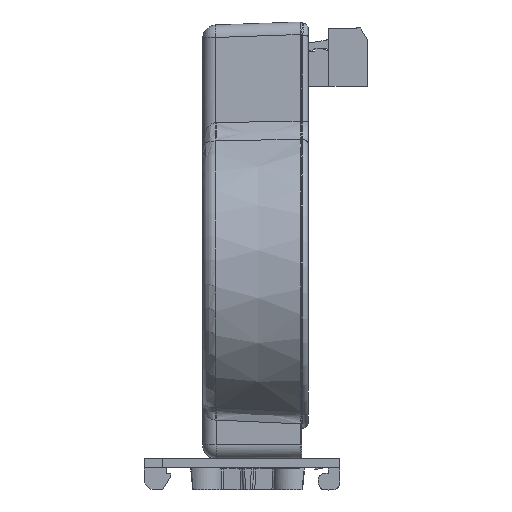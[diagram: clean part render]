
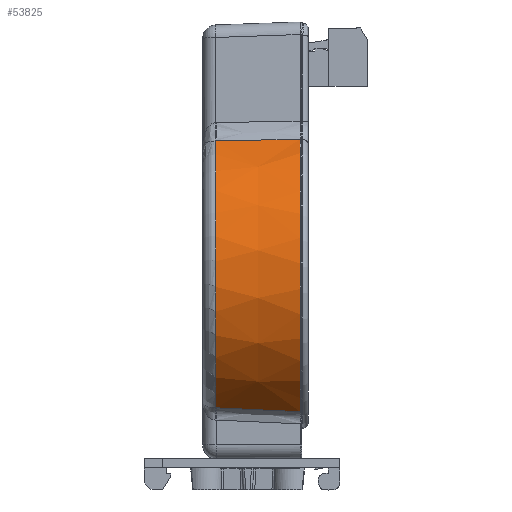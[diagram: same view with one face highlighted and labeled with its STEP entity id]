
A CAD part, left-side view. The second image highlights one B-rep face of the part: STEP entity #53825.
In plain terms, the highlighted conical face has half-angle 3 degrees and reference radius 33.672 mm.
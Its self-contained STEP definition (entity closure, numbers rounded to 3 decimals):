
#1004 = CARTESIAN_POINT ( 'NONE',  ( -15.431, 7.243, 14.577 ) ) ;
#3117 = CARTESIAN_POINT ( 'NONE',  ( -15.431, 7.243, 14.577 ) ) ;
#8857 = FACE_OUTER_BOUND ( 'NONE', #208490, .T. ) ;
#10369 = EDGE_CURVE ( 'NONE', #36460, #80765, #163085, .T. ) ;
#15547 = CARTESIAN_POINT ( 'NONE',  ( 0., 7.243, 44.505 ) ) ;
#17187 = B_SPLINE_CURVE_WITH_KNOTS ( 'NONE', 3,
 ( #155714, #89593, #188444, #90984 ),
 .UNSPECIFIED., .F., .F.,
 ( 4, 4 ),
 ( 0., 1. ),
 .UNSPECIFIED. ) ;
#19180 = VERTEX_POINT ( 'NONE', #158219 ) ;
#21271 = DIRECTION ( 'NONE',  ( 0., -1., 0. ) ) ;
#28633 = ORIENTED_EDGE ( 'NONE', *, *, #78534, .F. ) ;
#31660 = CONICAL_SURFACE ( 'NONE', #103837, 33.672, 0.052 ) ;
#31889 = DIRECTION ( 'NONE',  ( 1., 0., 0. ) ) ;
#36460 = VERTEX_POINT ( 'NONE', #3117 ) ;
#39006 = CARTESIAN_POINT ( 'NONE',  ( -16.038, 7.243, 74.112 ) ) ;
#40421 = CARTESIAN_POINT ( 'NONE',  ( -15.166, 19.628, 73.841 ) ) ;
#45551 = EDGE_CURVE ( 'NONE', #59951, #19180, #17187, .T. ) ;
#48857 = ORIENTED_EDGE ( 'NONE', *, *, #187339, .T. ) ;
#50329 = AXIS2_PLACEMENT_3D ( 'NONE', #58241, #172142, #74585 ) ;
#53825 = ADVANCED_FACE ( 'NONE', ( #8857 ), #31660, .T. ) ;
#55435 = ORIENTED_EDGE ( 'NONE', *, *, #10369, .T. ) ;
#58241 = CARTESIAN_POINT ( 'NONE',  ( 0., 25.682, 44.505 ) ) ;
#59951 = VERTEX_POINT ( 'NONE', #129627 ) ;
#70320 = ORIENTED_EDGE ( 'NONE', *, *, #45551, .T. ) ;
#74585 = DIRECTION ( 'NONE',  ( 0., 0., 1. ) ) ;
#78534 = EDGE_CURVE ( 'NONE', #59951, #208889, #120773, .T. ) ;
#80765 = VERTEX_POINT ( 'NONE', #154079 ) ;
#82036 = CARTESIAN_POINT ( 'NONE',  ( -15.114, 19.431, 15.132 ) ) ;
#86627 = DIRECTION ( 'NONE',  ( 1., 0., 0. ) ) ;
#89593 = CARTESIAN_POINT ( 'NONE',  ( -14.952, 25.63, 15.414 ) ) ;
#90984 = CARTESIAN_POINT ( 'NONE',  ( -14.956, 25.525, 15.41 ) ) ;
#98368 = CARTESIAN_POINT ( 'NONE',  ( -15.272, 13.337, 14.854 ) ) ;
#102270 = CARTESIAN_POINT ( 'NONE',  ( 0., 7.243, 44.505 ) ) ;
#102536 = B_SPLINE_CURVE_WITH_KNOTS ( 'NONE', 3,
 ( #195824, #82036, #98368, #1004 ),
 .UNSPECIFIED., .F., .F.,
 ( 4, 4 ),
 ( 0., 1. ),
 .UNSPECIFIED. ) ;
#103837 = AXIS2_PLACEMENT_3D ( 'NONE', #102270, #21271, #86627 ) ;
#119052 = CARTESIAN_POINT ( 'NONE',  ( -14.742, 25.682, 73.7 ) ) ;
#120773 = CIRCLE ( 'NONE', #50329, 32.706 ) ;
#125555 = ORIENTED_EDGE ( 'NONE', *, *, #153418, .T. ) ;
#129298 = DIRECTION ( 'NONE',  ( 0., 1., 0. ) ) ;
#129627 = CARTESIAN_POINT ( 'NONE',  ( -14.95, 25.682, 15.416 ) ) ;
#132483 = AXIS2_PLACEMENT_3D ( 'NONE', #15547, #129298, #31889 ) ;
#153418 = EDGE_CURVE ( 'NONE', #80765, #208889, #171326, .T. ) ;
#154079 = CARTESIAN_POINT ( 'NONE',  ( -16.038, 7.243, 74.112 ) ) ;
#154265 = CARTESIAN_POINT ( 'NONE',  ( -14.742, 25.682, 73.7 ) ) ;
#155714 = CARTESIAN_POINT ( 'NONE',  ( -14.95, 25.682, 15.416 ) ) ;
#158219 = CARTESIAN_POINT ( 'NONE',  ( -14.956, 25.525, 15.41 ) ) ;
#163085 = CIRCLE ( 'NONE', #132483, 33.672 ) ;
#169953 = CARTESIAN_POINT ( 'NONE',  ( -15.598, 13.482, 73.979 ) ) ;
#171326 = B_SPLINE_CURVE_WITH_KNOTS ( 'NONE', 3,
 ( #39006, #169953, #40421, #154265 ),
 .UNSPECIFIED., .F., .F.,
 ( 4, 4 ),
 ( 0., 1. ),
 .UNSPECIFIED. ) ;
#172142 = DIRECTION ( 'NONE',  ( 0., 1., 0. ) ) ;
#187339 = EDGE_CURVE ( 'NONE', #19180, #36460, #102536, .T. ) ;
#188444 = CARTESIAN_POINT ( 'NONE',  ( -14.954, 25.577, 15.412 ) ) ;
#195824 = CARTESIAN_POINT ( 'NONE',  ( -14.956, 25.525, 15.41 ) ) ;
#208490 = EDGE_LOOP ( 'NONE', ( #55435, #125555, #28633, #70320, #48857 ) ) ;
#208889 = VERTEX_POINT ( 'NONE', #119052 ) ;
